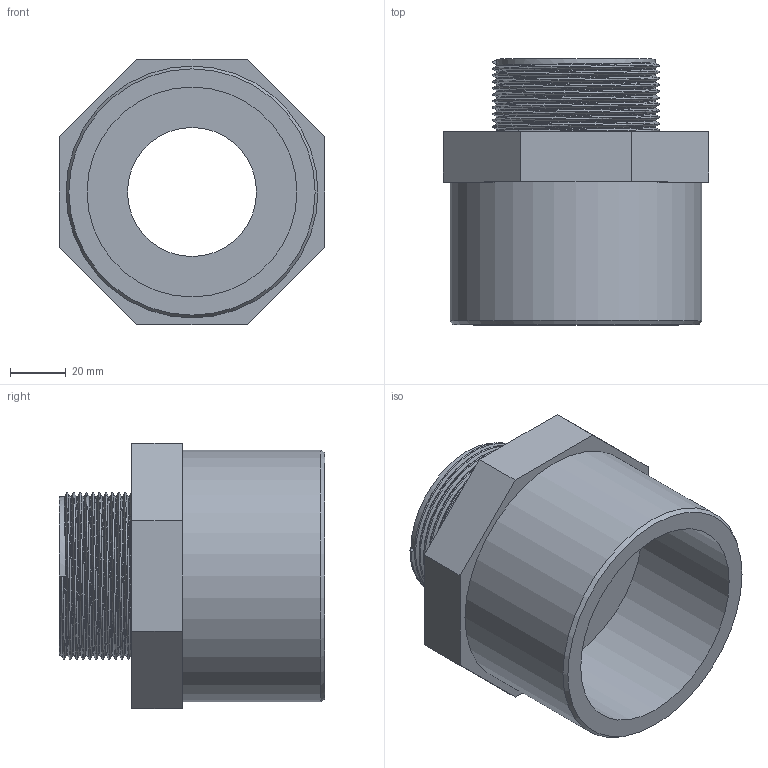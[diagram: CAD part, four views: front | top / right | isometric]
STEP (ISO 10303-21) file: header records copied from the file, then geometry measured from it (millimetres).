
FILE_DESCRIPTION(/* description */ ('PVC adattatore incollaggio-filettatura BSP maschio'),/* implementation_level */ '2;1');
FILE_NAME(/* name */ 'C:\Users\POLYPIPE\Desktop\DATASET INVENTOR\LIBRERIA EFFAST\RACCORDI 3DxWEB\RGR\3D_RGRAMG\3D_RGRAMG075G.stp',/* time_stamp */ '2018-01-19T17:36:58+01:00',/* author */ ('POLYPIPE'),/* organization */ ('Polypipe Italia s.r.l.'),/* preprocessor_version */ 'ST-DEVELOPER v16.1',/* originating_system */ 'Autodesk Inventor 2016',/* authorisation */ '');
FILE_SCHEMA (('CONFIG_CONTROL_DESIGN'));
Length unit declared in the file: millimetre
Products named in the file (1): 3D_RGRAMG
Bounding box: 95 x 95 x 95 mm (x, y, z)
Volume: 245644.7 mm3; surface area: 57203.7 mm2
Topology: 1 solids, 1 shells, 26 faces, 56 edges, 36 vertices
Faces by surface type: plane 15, cylinder 5, bspline 5, cone 1
Full cylindrical faces by diameter (mm): 46.1 x1, 47.1 x1, 56.656 x1, 75 x1, 90 x1
Entity records: 4776 total; most frequent: CARTESIAN_POINT 4223, ORIENTED_EDGE 102, DIRECTION 97, EDGE_CURVE 51, EDGE_LOOP 37, VERTEX_POINT 36, AXIS2_PLACEMENT_3D 35, LINE 27
